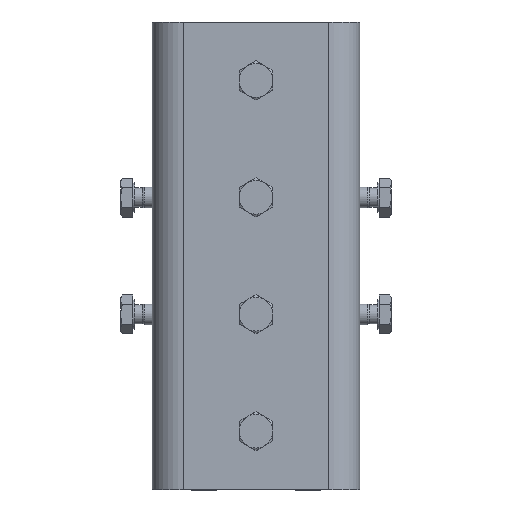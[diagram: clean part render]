
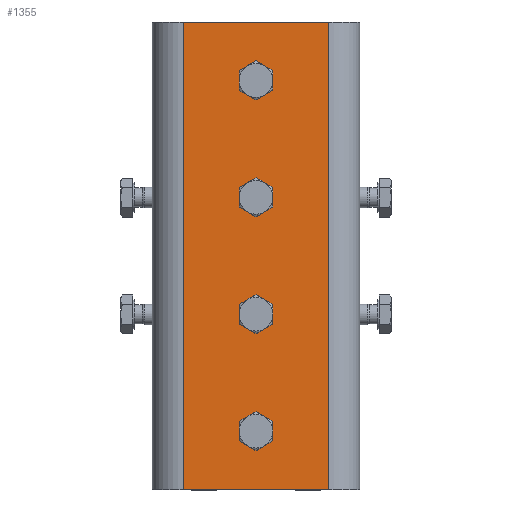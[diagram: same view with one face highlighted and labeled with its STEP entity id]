
A CAD part, top view. The second image highlights one B-rep face of the part: STEP entity #1355.
In plain terms, the highlighted planar face has unit normal (0, 0, 1).
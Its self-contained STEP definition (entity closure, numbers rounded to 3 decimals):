
#75=FACE_BOUND('',#245,.T.);
#76=FACE_BOUND('',#246,.T.);
#77=FACE_BOUND('',#247,.T.);
#78=FACE_BOUND('',#248,.T.);
#153=FACE_OUTER_BOUND('',#244,.T.);
#244=EDGE_LOOP('',(#953,#954,#955,#956));
#245=EDGE_LOOP('',(#957));
#246=EDGE_LOOP('',(#958));
#247=EDGE_LOOP('',(#959));
#248=EDGE_LOOP('',(#960));
#380=LINE('',#2083,#480);
#382=LINE('',#2087,#482);
#383=LINE('',#2089,#483);
#384=LINE('',#2090,#484);
#480=VECTOR('',#1640,180.);
#482=VECTOR('',#1644,56.);
#483=VECTOR('',#1645,180.);
#484=VECTOR('',#1646,56.);
#578=CIRCLE('',#1454,3.324);
#579=CIRCLE('',#1455,3.324);
#580=CIRCLE('',#1456,3.324);
#581=CIRCLE('',#1457,3.324);
#646=VERTEX_POINT('',#2067);
#649=VERTEX_POINT('',#2074);
#651=VERTEX_POINT('',#2086);
#652=VERTEX_POINT('',#2088);
#653=VERTEX_POINT('',#2091);
#654=VERTEX_POINT('',#2093);
#655=VERTEX_POINT('',#2095);
#656=VERTEX_POINT('',#2097);
#766=EDGE_CURVE('',#646,#649,#380,.T.);
#768=EDGE_CURVE('',#649,#651,#382,.T.);
#769=EDGE_CURVE('',#651,#652,#383,.T.);
#770=EDGE_CURVE('',#652,#646,#384,.T.);
#771=EDGE_CURVE('',#653,#653,#578,.T.);
#772=EDGE_CURVE('',#654,#654,#579,.T.);
#773=EDGE_CURVE('',#655,#655,#580,.T.);
#774=EDGE_CURVE('',#656,#656,#581,.T.);
#953=ORIENTED_EDGE('',*,*,#766,.T.);
#954=ORIENTED_EDGE('',*,*,#768,.T.);
#955=ORIENTED_EDGE('',*,*,#769,.T.);
#956=ORIENTED_EDGE('',*,*,#770,.T.);
#957=ORIENTED_EDGE('',*,*,#771,.T.);
#958=ORIENTED_EDGE('',*,*,#772,.T.);
#959=ORIENTED_EDGE('',*,*,#773,.T.);
#960=ORIENTED_EDGE('',*,*,#774,.T.);
#1301=PLANE('',#1453);
#1355=ADVANCED_FACE('',(#153,#75,#76,#77,#78),#1301,.T.);
#1453=AXIS2_PLACEMENT_3D('',#2085,#1642,#1643);
#1454=AXIS2_PLACEMENT_3D('',#2092,#1647,#1648);
#1455=AXIS2_PLACEMENT_3D('',#2094,#1649,#1650);
#1456=AXIS2_PLACEMENT_3D('',#2096,#1651,#1652);
#1457=AXIS2_PLACEMENT_3D('',#2098,#1653,#1654);
#1640=DIRECTION('',(0.,1.,0.));
#1642=DIRECTION('center_axis',(0.,0.,1.));
#1643=DIRECTION('ref_axis',(1.,0.,0.));
#1644=DIRECTION('',(-1.,0.,0.));
#1645=DIRECTION('',(0.,-1.,0.));
#1646=DIRECTION('',(1.,0.,0.));
#1647=DIRECTION('center_axis',(0.,0.,-1.));
#1648=DIRECTION('ref_axis',(1.,0.,0.));
#1649=DIRECTION('center_axis',(0.,0.,-1.));
#1650=DIRECTION('ref_axis',(1.,0.,0.));
#1651=DIRECTION('center_axis',(0.,0.,-1.));
#1652=DIRECTION('ref_axis',(1.,0.,0.));
#1653=DIRECTION('center_axis',(0.,0.,-1.));
#1654=DIRECTION('ref_axis',(1.,0.,0.));
#2067=CARTESIAN_POINT('',(28.,-90.,0.));
#2074=CARTESIAN_POINT('',(28.,90.,0.));
#2083=CARTESIAN_POINT('',(28.,45.,0.));
#2085=CARTESIAN_POINT('Origin',(108.42,0.,0.));
#2086=CARTESIAN_POINT('',(-28.,90.,0.));
#2087=CARTESIAN_POINT('',(113.679,90.,0.));
#2088=CARTESIAN_POINT('',(-28.,-90.,0.));
#2089=CARTESIAN_POINT('',(-28.,-45.,0.));
#2090=CARTESIAN_POINT('',(-113.679,-90.,0.));
#2091=CARTESIAN_POINT('',(3.323,67.5,0.));
#2092=CARTESIAN_POINT('Origin',(0.,67.5,0.));
#2093=CARTESIAN_POINT('',(3.324,-67.5,0.));
#2094=CARTESIAN_POINT('Origin',(0.,-67.5,0.));
#2095=CARTESIAN_POINT('',(3.324,22.5,0.));
#2096=CARTESIAN_POINT('Origin',(0.,22.5,0.));
#2097=CARTESIAN_POINT('',(3.324,-22.5,0.));
#2098=CARTESIAN_POINT('Origin',(0.,-22.5,0.));
